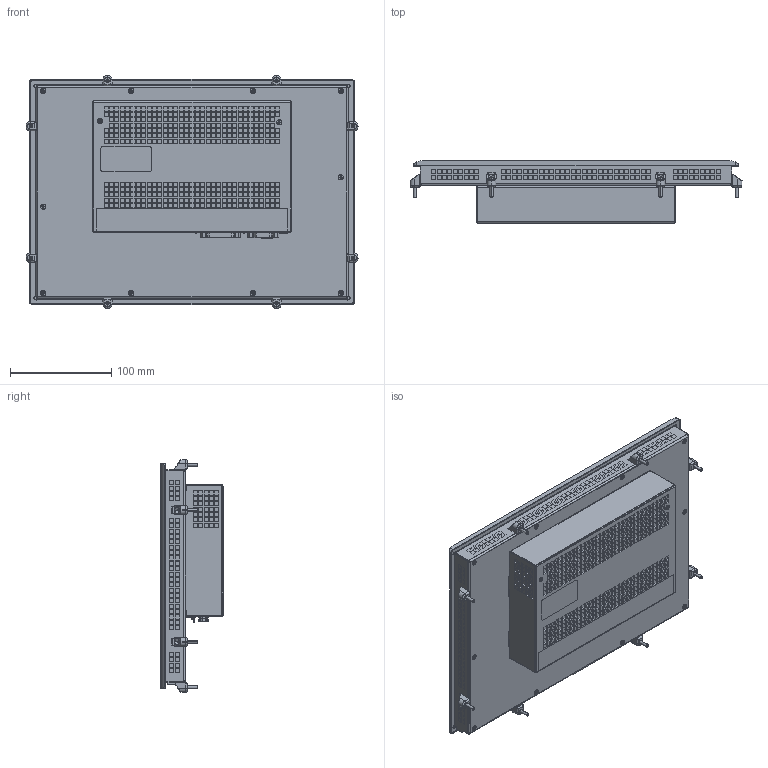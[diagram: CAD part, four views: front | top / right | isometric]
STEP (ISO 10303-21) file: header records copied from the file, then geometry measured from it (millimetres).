
FILE_DESCRIPTION (( 'STEP AP214' ), '1' );
FILE_NAME ('C6S14_121W_RES_UPS_DB15.STEP', '2019-07-29T10:20:39', ( '' ), ( '' ), 'SwSTEP 2.0', 'SolidWorks 2018', '' );
FILE_SCHEMA (( 'AUTOMOTIVE_DESIGN' ));
Length unit declared in the file: millimetre
Products named in the file (5): C6S14_121W_RES_UPS_DB15; DB15_Male_pin; C6S14_121W_RES_ASM; C6S14_121W_RES; C6S14_121W_RES_UPS_1
Assembly tree (4 placements, depth 3):
  C6S14_121W_RES_UPS_DB15
    C6S14_121W_RES_ASM
    C6S14_121W_RES
      C6S14_121W_RES_UPS_1
      DB15_Male_pin
Bounding box: 328 x 61.7 x 230 mm (x, y, z)
Surface area: 441107.4 mm2
Topology: 1 solids, 4732 shells, 5013 faces, 28121 edges, 27839 vertices
Faces by surface type: plane 3814, cylinder 776, cone 226, bspline 135, torus 42, sphere 20
Entity records: 322527 total; most frequent: CARTESIAN_POINT 120678, DIRECTION 33332, ORIENTED_EDGE 28700, EDGE_CURVE 28079, VERTEX_POINT 27822, LINE 19762, VECTOR 19762, AXIS2_PLACEMENT_3D 6785
